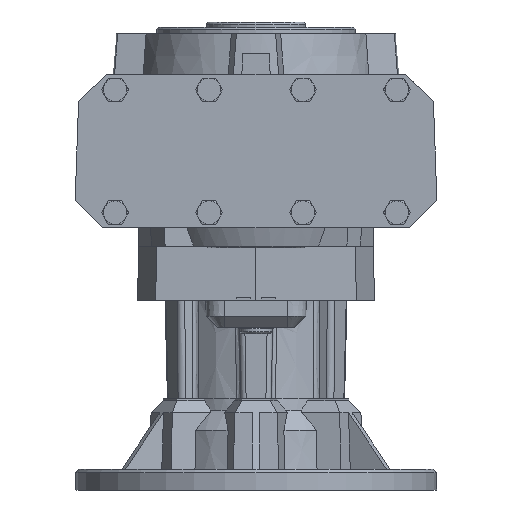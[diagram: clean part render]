
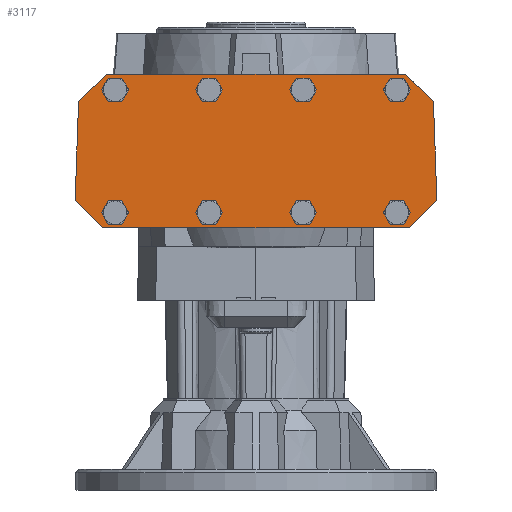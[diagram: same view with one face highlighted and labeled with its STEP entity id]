
A CAD part, front view. The second image highlights one B-rep face of the part: STEP entity #3117.
In plain terms, the highlighted planar face has unit normal (0, -1, 0).
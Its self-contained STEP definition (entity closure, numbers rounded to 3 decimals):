
#3117 = ADVANCED_FACE( '', ( #6570, #6571, #6572, #6573, #6574, #6575, #6576, #6577, #6578 ), #6579, .F. );
#6570 = FACE_BOUND( '', #10687, .T. );
#6571 = FACE_BOUND( '', #10688, .T. );
#6572 = FACE_BOUND( '', #10689, .T. );
#6573 = FACE_BOUND( '', #10690, .T. );
#6574 = FACE_BOUND( '', #10691, .T. );
#6575 = FACE_BOUND( '', #10692, .T. );
#6576 = FACE_BOUND( '', #10693, .T. );
#6577 = FACE_BOUND( '', #10694, .T. );
#6578 = FACE_OUTER_BOUND( '', #10695, .T. );
#6579 = PLANE( '', #10696 );
#10687 = EDGE_LOOP( '', ( #19351 ) );
#10688 = EDGE_LOOP( '', ( #19352 ) );
#10689 = EDGE_LOOP( '', ( #19353 ) );
#10690 = EDGE_LOOP( '', ( #19354 ) );
#10691 = EDGE_LOOP( '', ( #19355 ) );
#10692 = EDGE_LOOP( '', ( #19356 ) );
#10693 = EDGE_LOOP( '', ( #19357 ) );
#10694 = EDGE_LOOP( '', ( #19358 ) );
#10695 = EDGE_LOOP( '', ( #19359, #19360, #19361, #19362, #19363, #19364, #19365, #19366, #19367, #19368 ) );
#10696 = AXIS2_PLACEMENT_3D( '', #19369, #19370, #19371 );
#19351 = ORIENTED_EDGE( '', *, *, #21544, .T. );
#19352 = ORIENTED_EDGE( '', *, *, #23230, .T. );
#19353 = ORIENTED_EDGE( '', *, *, #22017, .T. );
#19354 = ORIENTED_EDGE( '', *, *, #21560, .T. );
#19355 = ORIENTED_EDGE( '', *, *, #23343, .T. );
#19356 = ORIENTED_EDGE( '', *, *, #22524, .T. );
#19357 = ORIENTED_EDGE( '', *, *, #23341, .T. );
#19358 = ORIENTED_EDGE( '', *, *, #21542, .T. );
#19359 = ORIENTED_EDGE( '', *, *, #20544, .F. );
#19360 = ORIENTED_EDGE( '', *, *, #23552, .T. );
#19361 = ORIENTED_EDGE( '', *, *, #23897, .F. );
#19362 = ORIENTED_EDGE( '', *, *, #23790, .F. );
#19363 = ORIENTED_EDGE( '', *, *, #22882, .T. );
#19364 = ORIENTED_EDGE( '', *, *, #21108, .F. );
#19365 = ORIENTED_EDGE( '', *, *, #21010, .T. );
#19366 = ORIENTED_EDGE( '', *, *, #23898, .F. );
#19367 = ORIENTED_EDGE( '', *, *, #23038, .F. );
#19368 = ORIENTED_EDGE( '', *, *, #21637, .T. );
#19369 = CARTESIAN_POINT( '', ( 100., -95., -107.5 ) );
#19370 = DIRECTION( '', ( 0., 1., 0. ) );
#19371 = DIRECTION( '', ( 1., 0., 0. ) );
#20544 = EDGE_CURVE( '', #24065, #24067, #24068, .T. );
#21010 = EDGE_CURVE( '', #24894, #24892, #24895, .T. );
#21108 = EDGE_CURVE( '', #24894, #25065, #25066, .T. );
#21542 = EDGE_CURVE( '', #25786, #25786, #25787, .T. );
#21544 = EDGE_CURVE( '', #25789, #25789, #25790, .T. );
#21560 = EDGE_CURVE( '', #25813, #25813, #25814, .T. );
#21637 = EDGE_CURVE( '', #25936, #24067, #25937, .T. );
#22017 = EDGE_CURVE( '', #26542, #26542, #26543, .T. );
#22524 = EDGE_CURVE( '', #27303, #27303, #27304, .T. );
#22882 = EDGE_CURVE( '', #27800, #25065, #27801, .T. );
#23038 = EDGE_CURVE( '', #25936, #28011, #28012, .F. );
#23230 = EDGE_CURVE( '', #28270, #28270, #28271, .T. );
#23341 = EDGE_CURVE( '', #28412, #28412, #28413, .T. );
#23343 = EDGE_CURVE( '', #28415, #28415, #28416, .T. );
#23552 = EDGE_CURVE( '', #24065, #28676, #28678, .T. );
#23790 = EDGE_CURVE( '', #27800, #28945, #28946, .F. );
#23897 = EDGE_CURVE( '', #28945, #28676, #29064, .F. );
#23898 = EDGE_CURVE( '', #28011, #24892, #29065, .F. );
#24065 = VERTEX_POINT( '', #29240 );
#24067 = VERTEX_POINT( '', #29243 );
#24068 = LINE( '', #29244, #29245 );
#24892 = VERTEX_POINT( '', #30535 );
#24894 = VERTEX_POINT( '', #30538 );
#24895 = LINE( '', #30539, #30540 );
#25065 = VERTEX_POINT( '', #30797 );
#25066 = LINE( '', #30798, #30799 );
#25786 = VERTEX_POINT( '', #31881 );
#25787 = CIRCLE( '', #31882, 5.7 );
#25789 = VERTEX_POINT( '', #31884 );
#25790 = CIRCLE( '', #31885, 5.7 );
#25813 = VERTEX_POINT( '', #31917 );
#25814 = CIRCLE( '', #31918, 5.7 );
#25936 = VERTEX_POINT( '', #32094 );
#25937 = LINE( '', #32095, #32096 );
#26542 = VERTEX_POINT( '', #33056 );
#26543 = CIRCLE( '', #33057, 5.7 );
#27303 = VERTEX_POINT( '', #34351 );
#27304 = CIRCLE( '', #34352, 5.7 );
#27800 = VERTEX_POINT( '', #35158 );
#27801 = LINE( '', #35159, #35160 );
#28011 = VERTEX_POINT( '', #35472 );
#28012 = LINE( '', #35473, #35474 );
#28270 = VERTEX_POINT( '', #35879 );
#28271 = CIRCLE( '', #35880, 5.7 );
#28412 = VERTEX_POINT( '', #36087 );
#28413 = CIRCLE( '', #36088, 5.7 );
#28415 = VERTEX_POINT( '', #36090 );
#28416 = CIRCLE( '', #36091, 5.7 );
#28676 = VERTEX_POINT( '', #36594 );
#28678 = LINE( '', #36597, #36598 );
#28945 = VERTEX_POINT( '', #37044 );
#28946 = LINE( '', #37045, #37046 );
#29064 = LINE( '', #37209, #37210 );
#29065 = LINE( '', #37211, #37212 );
#29240 = CARTESIAN_POINT( '', ( -82.66, -95., -22.5 ) );
#29243 = CARTESIAN_POINT( '', ( 82.66, -95., -22.5 ) );
#29244 = CARTESIAN_POINT( '', ( -100., -95., -22.5 ) );
#29245 = VECTOR( '', #37423, 1000. );
#30535 = CARTESIAN_POINT( '', ( 99.895, -95., -92.509 ) );
#30538 = CARTESIAN_POINT( '', ( 84.371, -95., -107.5 ) );
#30539 = CARTESIAN_POINT( '', ( 84.371, -95., -107.5 ) );
#30540 = VECTOR( '', #37944, 1000. );
#30797 = CARTESIAN_POINT( '', ( -84.371, -95., -107.5 ) );
#30798 = CARTESIAN_POINT( '', ( 100., -95., -107.5 ) );
#30799 = VECTOR( '', #38039, 1000. );
#31881 = CARTESIAN_POINT( '', ( -26., -95., -25.3 ) );
#31882 = AXIS2_PLACEMENT_3D( '', #38548, #38549, #38550 );
#31884 = CARTESIAN_POINT( '', ( -78., -95., -25.3 ) );
#31885 = AXIS2_PLACEMENT_3D( '', #38551, #38552, #38553 );
#31917 = CARTESIAN_POINT( '', ( 26., -95., -93.3 ) );
#31918 = AXIS2_PLACEMENT_3D( '', #38572, #38573, #38574 );
#32094 = CARTESIAN_POINT( '', ( 98.184, -95., -37.491 ) );
#32095 = CARTESIAN_POINT( '', ( 98.184, -95., -37.491 ) );
#32096 = VECTOR( '', #38658, 1000. );
#33056 = CARTESIAN_POINT( '', ( -26., -95., -93.3 ) );
#33057 = AXIS2_PLACEMENT_3D( '', #39129, #39130, #39131 );
#34351 = CARTESIAN_POINT( '', ( 78., -95., -25.3 ) );
#34352 = AXIS2_PLACEMENT_3D( '', #39592, #39593, #39594 );
#35158 = CARTESIAN_POINT( '', ( -99.895, -95., -92.509 ) );
#35159 = CARTESIAN_POINT( '', ( -99.895, -95., -92.509 ) );
#35160 = VECTOR( '', #39922, 1000. );
#35472 = CARTESIAN_POINT( '', ( 100., -95., -89.5 ) );
#35473 = CARTESIAN_POINT( '', ( 100., -95., -89.5 ) );
#35474 = VECTOR( '', #40077, 1000. );
#35879 = CARTESIAN_POINT( '', ( -78., -95., -93.3 ) );
#35880 = AXIS2_PLACEMENT_3D( '', #40255, #40256, #40257 );
#36087 = CARTESIAN_POINT( '', ( 26., -95., -25.3 ) );
#36088 = AXIS2_PLACEMENT_3D( '', #40341, #40342, #40343 );
#36090 = CARTESIAN_POINT( '', ( 78., -95., -93.3 ) );
#36091 = AXIS2_PLACEMENT_3D( '', #40344, #40345, #40346 );
#36594 = CARTESIAN_POINT( '', ( -98.184, -95., -37.491 ) );
#36597 = CARTESIAN_POINT( '', ( -82.66, -95., -22.5 ) );
#36598 = VECTOR( '', #40488, 1000. );
#37044 = CARTESIAN_POINT( '', ( -100., -95., -89.5 ) );
#37045 = CARTESIAN_POINT( '', ( -100., -95., -89.5 ) );
#37046 = VECTOR( '', #40641, 1000. );
#37209 = CARTESIAN_POINT( '', ( -100., -95., -89.5 ) );
#37210 = VECTOR( '', #40706, 1000. );
#37211 = CARTESIAN_POINT( '', ( 100., -95., -89.5 ) );
#37212 = VECTOR( '', #40707, 1000. );
#37423 = DIRECTION( '', ( 1., 0., 0. ) );
#37944 = DIRECTION( '', ( 0.719, 0., 0.695 ) );
#38039 = DIRECTION( '', ( -1., 0., 0. ) );
#38548 = CARTESIAN_POINT( '', ( -26., -95., -31. ) );
#38549 = DIRECTION( '', ( 0., 1., 0. ) );
#38550 = DIRECTION( '', ( 0., 0., 1. ) );
#38551 = CARTESIAN_POINT( '', ( -78., -95., -31. ) );
#38552 = DIRECTION( '', ( 0., 1., 0. ) );
#38553 = DIRECTION( '', ( 0., 0., 1. ) );
#38572 = CARTESIAN_POINT( '', ( 26., -95., -99. ) );
#38573 = DIRECTION( '', ( 0., 1., 0. ) );
#38574 = DIRECTION( '', ( 0., 0., 1. ) );
#38658 = DIRECTION( '', ( -0.719, 0., 0.695 ) );
#39129 = CARTESIAN_POINT( '', ( -26., -95., -99. ) );
#39130 = DIRECTION( '', ( 0., 1., 0. ) );
#39131 = DIRECTION( '', ( 0., 0., 1. ) );
#39592 = CARTESIAN_POINT( '', ( 78., -95., -31. ) );
#39593 = DIRECTION( '', ( 0., 1., 0. ) );
#39594 = DIRECTION( '', ( 0., 0., 1. ) );
#39922 = DIRECTION( '', ( 0.719, 0., -0.695 ) );
#40077 = DIRECTION( '', ( -0.035, 0., 0.999 ) );
#40255 = CARTESIAN_POINT( '', ( -78., -95., -99. ) );
#40256 = DIRECTION( '', ( 0., 1., 0. ) );
#40257 = DIRECTION( '', ( 0., 0., 1. ) );
#40341 = CARTESIAN_POINT( '', ( 26., -95., -31. ) );
#40342 = DIRECTION( '', ( 0., 1., 0. ) );
#40343 = DIRECTION( '', ( 0., 0., 1. ) );
#40344 = CARTESIAN_POINT( '', ( 78., -95., -99. ) );
#40345 = DIRECTION( '', ( 0., 1., 0. ) );
#40346 = DIRECTION( '', ( 0., 0., 1. ) );
#40488 = DIRECTION( '', ( -0.719, 0., -0.695 ) );
#40641 = DIRECTION( '', ( 0.035, 0., -0.999 ) );
#40706 = DIRECTION( '', ( -0.035, 0., -0.999 ) );
#40707 = DIRECTION( '', ( 0.035, 0., 0.999 ) );
